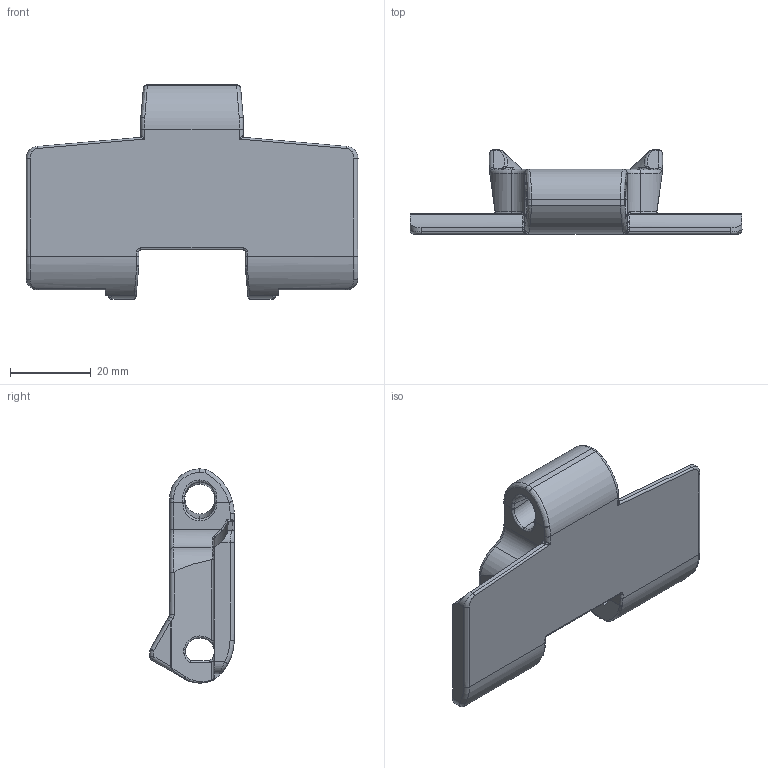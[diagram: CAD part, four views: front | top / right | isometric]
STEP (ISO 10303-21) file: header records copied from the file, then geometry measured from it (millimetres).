
FILE_DESCRIPTION((''),'2;1');
FILE_NAME('P101','2012-07-02T',('jas'),(''),'PRO/ENGINEER BY PARAMETRIC TECHNOLOGY CORPORATION, 2012130','PRO/ENGINEER BY PARAMETRIC TECHNOLOGY CORPORATION, 2012130','');
FILE_SCHEMA(('AUTOMOTIVE_DESIGN { 1 0 10303 214 1 1 1 1 }'));
Length unit declared in the file: millimetre
Products named in the file (1): P101
Bounding box: 82.3 x 20.88 x 53.1 mm (x, y, z)
Volume: 20964 mm3; surface area: 10415.4 mm2
Topology: 1 solids, 1 shells, 1041 faces, 2799 edges, 1788 vertices
Faces by surface type: plane 724, bspline 138, cylinder 127, torus 30, sphere 16, cone 6
Entity records: 43789 total; most frequent: CARTESIAN_POINT 18312, ORIENTED_EDGE 5594, DIRECTION 4569, EDGE_CURVE 2797, VECTOR 2159, LINE 2159, VERTEX_POINT 1788, AXIS2_PLACEMENT_3D 1205
